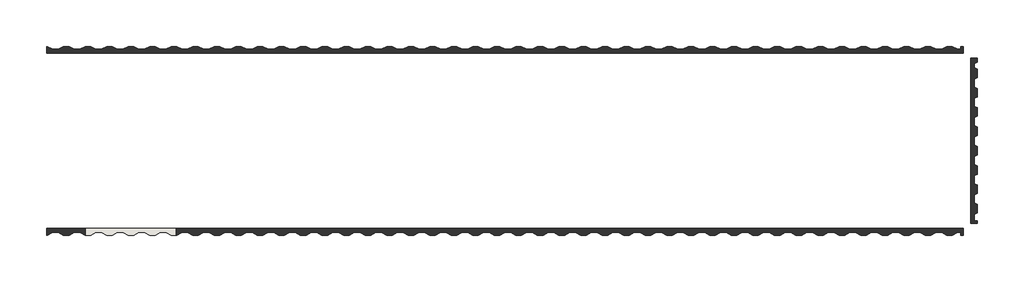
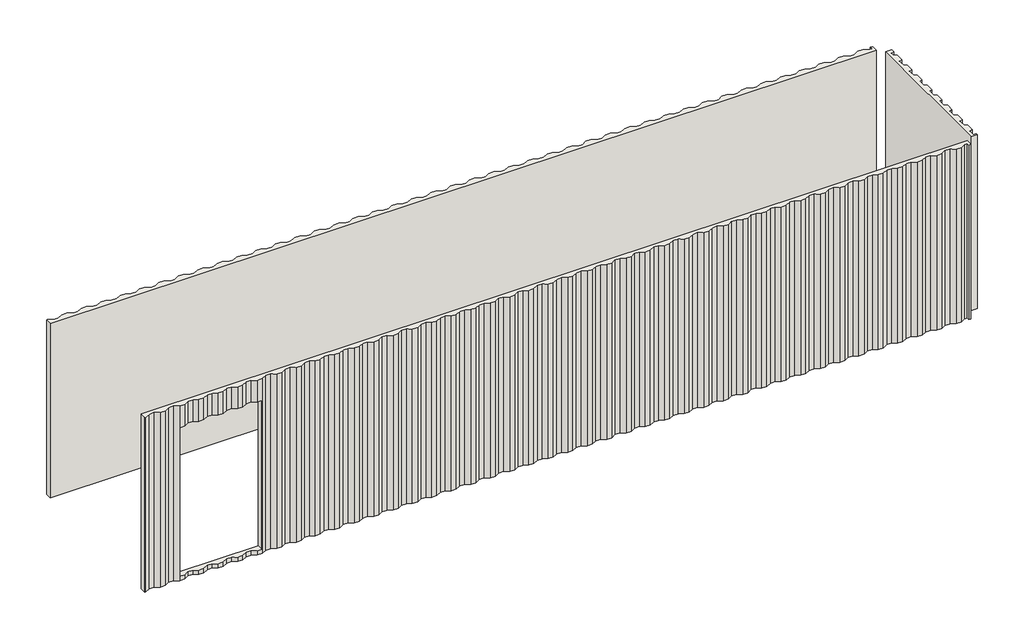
# One storey, incomplete: 3 walls.
"""IFC4 building model written with IfcOpenShell, lengths in millimetres."""

from ifc_helpers import new_model, si_unit, origin, place, context, project, spatial, transform, mapped, element, save
from components import walls_1_walls_2_2b18bc49, walls_3_walls_2_973bfb74, walls_7_walls_2_8f4ebd31

model = new_model("IFC4")

# Units and contexts
model_context = context("Model", 3, world=origin())
ifc_project = project(units=[si_unit("LENGTHUNIT", "METRE", prefix="MILLI")], contexts=[model_context])

# Site, building, storey
site = spatial("IfcSite", under=ifc_project)
building = spatial("IfcBuilding", under=site)
storey = spatial("IfcBuildingStorey", under=building, Name="B.O. Footing", Elevation=0.0)

# Walls
placement = place(None, origin())
walls_1_walls_2_shape = walls_1_walls_2_2b18bc49(model_context)
element("IfcWall", 1, ObjectType="Walls 1 : Walls 2", at=placement, inside=storey, context=model_context, shape_type="MappedRepresentation", body=[
    mapped(walls_1_walls_2_shape, transform((0.0, 0.0, 0.0), x_axis=(1.0, 0.0, 0.0), y_axis=(0.0, 1.0, 0.0), z_axis=(0.0, 0.0, 1.0))),
])
walls_3_walls_2_shape = walls_3_walls_2_973bfb74(model_context)
element("IfcWall", 2, ObjectType="Walls 3 : Walls 2", at=placement, inside=storey, context=model_context, shape_type="MappedRepresentation", body=[
    mapped(walls_3_walls_2_shape, transform((6096.9894444, 0.0, 0.0), x_axis=(1.0, 0.0, 0.0), y_axis=(0.0, 1.0, 0.0), z_axis=(0.0, 0.0, 1.0))),
])
walls_7_walls_2_shape = walls_7_walls_2_8f4ebd31(model_context)
element("IfcWall", 3, ObjectType="Walls 7 : Walls 2", at=placement, inside=storey, context=model_context, shape_type="MappedRepresentation", body=[
    mapped(walls_7_walls_2_shape, transform((0.0, 0.0, 0.0), x_axis=(1.0, 0.0, 0.0), y_axis=(0.0, 1.0, 0.0), z_axis=(0.0, 0.0, 1.0))),
])

save(model, "model.ifc")
